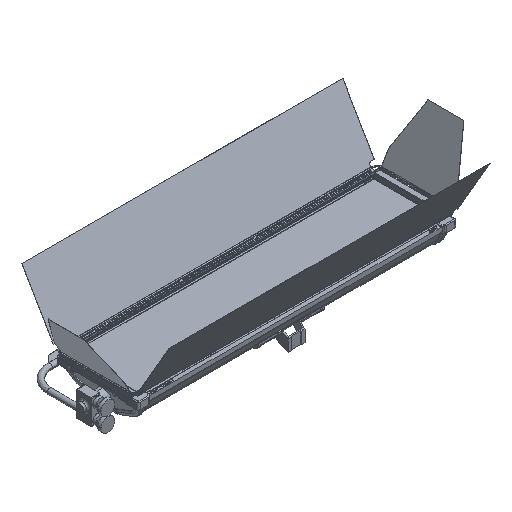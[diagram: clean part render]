
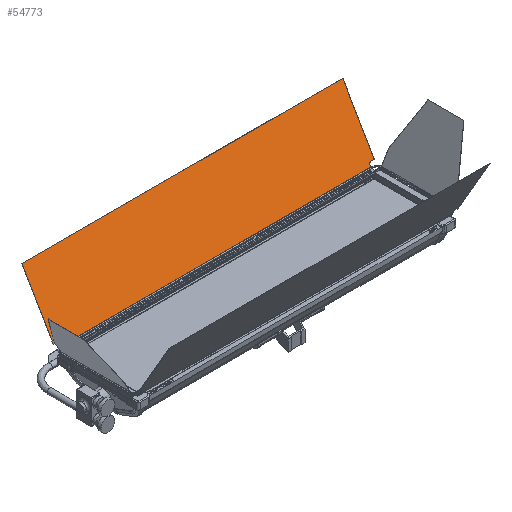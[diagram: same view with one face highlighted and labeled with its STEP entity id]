
A CAD part, isometric view. The second image highlights one B-rep face of the part: STEP entity #54773.
In plain terms, the highlighted planar face has unit normal (0, -0.866, 0.5).
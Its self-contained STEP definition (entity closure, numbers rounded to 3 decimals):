
#132 = ORIENTED_EDGE ( 'NONE', *, *, #29925, .F. ) ;
#609 = AXIS2_PLACEMENT_3D ( 'NONE', #96073, #35316, #106319 ) ;
#3184 = EDGE_CURVE ( 'NONE', #62394, #35959, #49958, .T. ) ;
#3865 = CARTESIAN_POINT ( 'NONE',  ( -654., 175.665, 13.472 ) ) ;
#4051 = ORIENTED_EDGE ( 'NONE', *, *, #115219, .T. ) ;
#6945 = DIRECTION ( 'NONE',  ( -1., 0., 0. ) ) ;
#7767 = LINE ( 'NONE', #120008, #34745 ) ;
#8687 = CARTESIAN_POINT ( 'NONE',  ( 670., 306.165, 239.505 ) ) ;
#11620 = LINE ( 'NONE', #114251, #62515 ) ;
#11758 = LINE ( 'NONE', #77443, #89697 ) ;
#13044 = DIRECTION ( 'NONE',  ( 0., -0.5, -0.866 ) ) ;
#13422 = CARTESIAN_POINT ( 'NONE',  ( -648., 172.665, 8.276 ) ) ;
#14376 = VERTEX_POINT ( 'NONE', #91416 ) ;
#17486 = CIRCLE ( 'NONE', #609, 6. ) ;
#18772 = PLANE ( 'NONE',  #126991 ) ;
#24558 = VECTOR ( 'NONE', #61827, 1000. ) ;
#24863 = EDGE_CURVE ( 'NONE', #34407, #59669, #129854, .T. ) ;
#25386 = CARTESIAN_POINT ( 'NONE',  ( 668., 176.665, 15.204 ) ) ;
#27320 = CARTESIAN_POINT ( 'NONE',  ( 668., 175.665, 13.472 ) ) ;
#29465 = ORIENTED_EDGE ( 'NONE', *, *, #24863, .F. ) ;
#29925 = EDGE_CURVE ( 'NONE', #126875, #129595, #7767, .T. ) ;
#30367 = DIRECTION ( 'NONE',  ( 0., -0.866, 0.5 ) ) ;
#31906 = VECTOR ( 'NONE', #45354, 1000. ) ;
#32563 = ORIENTED_EDGE ( 'NONE', *, *, #100545, .F. ) ;
#34407 = VERTEX_POINT ( 'NONE', #74503 ) ;
#34686 = DIRECTION ( 'NONE',  ( -1., 0., 0. ) ) ;
#34702 = CARTESIAN_POINT ( 'NONE',  ( 668., 306.165, 239.505 ) ) ;
#34745 = VECTOR ( 'NONE', #48937, 1000. ) ;
#35316 = DIRECTION ( 'NONE',  ( 0., 0.866, -0.5 ) ) ;
#35576 = DIRECTION ( 'NONE',  ( 1., 0., 0. ) ) ;
#35959 = VERTEX_POINT ( 'NONE', #8687 ) ;
#38502 = CIRCLE ( 'NONE', #125175, 2. ) ;
#41240 = CARTESIAN_POINT ( 'NONE',  ( 654., 175.665, 13.472 ) ) ;
#42897 = EDGE_CURVE ( 'NONE', #62394, #86650, #62822, .T. ) ;
#43319 = VERTEX_POINT ( 'NONE', #55486 ) ;
#43920 = VERTEX_POINT ( 'NONE', #3865 ) ;
#44412 = ORIENTED_EDGE ( 'NONE', *, *, #67905, .T. ) ;
#44863 = DIRECTION ( 'NONE',  ( 0., 0.5, 0.866 ) ) ;
#45354 = DIRECTION ( 'NONE',  ( 0., -0.5, -0.866 ) ) ;
#46103 = ORIENTED_EDGE ( 'NONE', *, *, #124597, .T. ) ;
#46570 = VECTOR ( 'NONE', #125119, 1000. ) ;
#48937 = DIRECTION ( 'NONE',  ( -1., 0., 0. ) ) ;
#49958 = CIRCLE ( 'NONE', #71160, 2. ) ;
#50081 = ORIENTED_EDGE ( 'NONE', *, *, #3184, .F. ) ;
#50870 = CARTESIAN_POINT ( 'NONE',  ( -668., 306.165, 239.505 ) ) ;
#50874 = VERTEX_POINT ( 'NONE', #13422 ) ;
#52587 = AXIS2_PLACEMENT_3D ( 'NONE', #115926, #55149, #126151 ) ;
#53321 = LINE ( 'NONE', #128650, #104090 ) ;
#54773 = ADVANCED_FACE ( 'NONE', ( #71382 ), #18772, .F. ) ;
#55149 = DIRECTION ( 'NONE',  ( 0., -0.866, 0.5 ) ) ;
#55486 = CARTESIAN_POINT ( 'NONE',  ( -670., 176.665, 15.204 ) ) ;
#56221 = CARTESIAN_POINT ( 'NONE',  ( 668., 307.165, 241.237 ) ) ;
#57798 = EDGE_CURVE ( 'NONE', #35959, #34407, #11620, .T. ) ;
#59636 = DIRECTION ( 'NONE',  ( 0., 0.5, 0.866 ) ) ;
#59669 = VERTEX_POINT ( 'NONE', #27320 ) ;
#61073 = DIRECTION ( 'NONE',  ( 0., 0.5, 0.866 ) ) ;
#61442 = EDGE_CURVE ( 'NONE', #113801, #59669, #78610, .T. ) ;
#61827 = DIRECTION ( 'NONE',  ( 1., 0., 0. ) ) ;
#62394 = VERTEX_POINT ( 'NONE', #56221 ) ;
#62515 = VECTOR ( 'NONE', #13044, 1000. ) ;
#62822 = LINE ( 'NONE', #95486, #116780 ) ;
#67217 = DIRECTION ( 'NONE',  ( 0., 0.5, 0.866 ) ) ;
#67905 = EDGE_CURVE ( 'NONE', #43920, #50874, #17486, .T. ) ;
#70515 = ORIENTED_EDGE ( 'NONE', *, *, #121749, .T. ) ;
#71160 = AXIS2_PLACEMENT_3D ( 'NONE', #34702, #105709, #44863 ) ;
#71382 = FACE_OUTER_BOUND ( 'NONE', #78401, .T. ) ;
#73581 = LINE ( 'NONE', #74066, #46570 ) ;
#74066 = CARTESIAN_POINT ( 'NONE',  ( 648., 167.165, -1.25 ) ) ;
#74503 = CARTESIAN_POINT ( 'NONE',  ( 670., 176.665, 15.204 ) ) ;
#75050 = CARTESIAN_POINT ( 'NONE',  ( 648., 172.665, 8.276 ) ) ;
#75774 = EDGE_CURVE ( 'NONE', #14376, #43319, #116118, .T. ) ;
#77443 = CARTESIAN_POINT ( 'NONE',  ( -648., 167.165, -1.25 ) ) ;
#78020 = CARTESIAN_POINT ( 'NONE',  ( -648., 167.165, -1.25 ) ) ;
#78401 = EDGE_LOOP ( 'NONE', ( #101658, #132, #70515, #117055, #116884, #29465, #111863, #50081, #99512, #4051, #113396, #46103, #32563, #44412 ) ) ;
#78610 = LINE ( 'NONE', #102148, #24558 ) ;
#84764 = EDGE_CURVE ( 'NONE', #113801, #112495, #111622, .T. ) ;
#86624 = CARTESIAN_POINT ( 'NONE',  ( 648., 167.165, -1.25 ) ) ;
#86650 = VERTEX_POINT ( 'NONE', #103379 ) ;
#89697 = VECTOR ( 'NONE', #67217, 1000. ) ;
#89836 = CARTESIAN_POINT ( 'NONE',  ( -703.5, 163.665, -7.312 ) ) ;
#91015 = CARTESIAN_POINT ( 'NONE',  ( -668., 175.665, 13.472 ) ) ;
#91260 = CARTESIAN_POINT ( 'NONE',  ( 654., 172.665, 8.276 ) ) ;
#91416 = CARTESIAN_POINT ( 'NONE',  ( -670., 306.165, 239.505 ) ) ;
#95486 = CARTESIAN_POINT ( 'NONE',  ( 668., 307.165, 241.237 ) ) ;
#96073 = CARTESIAN_POINT ( 'NONE',  ( -654., 172.665, 8.276 ) ) ;
#96343 = DIRECTION ( 'NONE',  ( 0., 0.866, -0.5 ) ) ;
#99512 = ORIENTED_EDGE ( 'NONE', *, *, #42897, .T. ) ;
#100545 = EDGE_CURVE ( 'NONE', #43920, #117897, #53321, .T. ) ;
#101383 = DIRECTION ( 'NONE',  ( 0., 0.5, 0.866 ) ) ;
#101658 = ORIENTED_EDGE ( 'NONE', *, *, #111952, .F. ) ;
#102148 = CARTESIAN_POINT ( 'NONE',  ( 654., 175.665, 13.472 ) ) ;
#103379 = CARTESIAN_POINT ( 'NONE',  ( -668., 307.165, 241.237 ) ) ;
#103644 = CIRCLE ( 'NONE', #52587, 2. ) ;
#104090 = VECTOR ( 'NONE', #6945, 1000. ) ;
#105709 = DIRECTION ( 'NONE',  ( 0., 0.866, -0.5 ) ) ;
#106319 = DIRECTION ( 'NONE',  ( 0., 0.5, 0.866 ) ) ;
#108775 = AXIS2_PLACEMENT_3D ( 'NONE', #91260, #30367, #101383 ) ;
#111622 = CIRCLE ( 'NONE', #108775, 6. ) ;
#111863 = ORIENTED_EDGE ( 'NONE', *, *, #57798, .F. ) ;
#111952 = EDGE_CURVE ( 'NONE', #129595, #50874, #11758, .T. ) ;
#112495 = VERTEX_POINT ( 'NONE', #75050 ) ;
#113396 = ORIENTED_EDGE ( 'NONE', *, *, #75774, .T. ) ;
#113801 = VERTEX_POINT ( 'NONE', #41240 ) ;
#114251 = CARTESIAN_POINT ( 'NONE',  ( 670., 306.165, 239.505 ) ) ;
#115219 = EDGE_CURVE ( 'NONE', #86650, #14376, #38502, .T. ) ;
#115926 = CARTESIAN_POINT ( 'NONE',  ( -668., 176.665, 15.204 ) ) ;
#115972 = CARTESIAN_POINT ( 'NONE',  ( -670., 306.165, 239.505 ) ) ;
#116118 = LINE ( 'NONE', #115972, #31906 ) ;
#116780 = VECTOR ( 'NONE', #34686, 1000. ) ;
#116884 = ORIENTED_EDGE ( 'NONE', *, *, #61442, .T. ) ;
#117055 = ORIENTED_EDGE ( 'NONE', *, *, #84764, .F. ) ;
#117897 = VERTEX_POINT ( 'NONE', #91015 ) ;
#120008 = CARTESIAN_POINT ( 'NONE',  ( 648., 167.165, -1.25 ) ) ;
#120468 = DIRECTION ( 'NONE',  ( 0., 0.866, -0.5 ) ) ;
#121749 = EDGE_CURVE ( 'NONE', #126875, #112495, #73581, .T. ) ;
#121898 = DIRECTION ( 'NONE',  ( 0., -0.866, 0.5 ) ) ;
#124597 = EDGE_CURVE ( 'NONE', #43319, #117897, #103644, .T. ) ;
#124706 = AXIS2_PLACEMENT_3D ( 'NONE', #25386, #96343, #35576 ) ;
#125119 = DIRECTION ( 'NONE',  ( 0., 0.5, 0.866 ) ) ;
#125175 = AXIS2_PLACEMENT_3D ( 'NONE', #50870, #121898, #61073 ) ;
#126151 = DIRECTION ( 'NONE',  ( -1., 0., 0. ) ) ;
#126875 = VERTEX_POINT ( 'NONE', #86624 ) ;
#126991 = AXIS2_PLACEMENT_3D ( 'NONE', #89836, #120468, #59636 ) ;
#128650 = CARTESIAN_POINT ( 'NONE',  ( -654., 175.665, 13.472 ) ) ;
#129595 = VERTEX_POINT ( 'NONE', #78020 ) ;
#129854 = CIRCLE ( 'NONE', #124706, 2. ) ;
